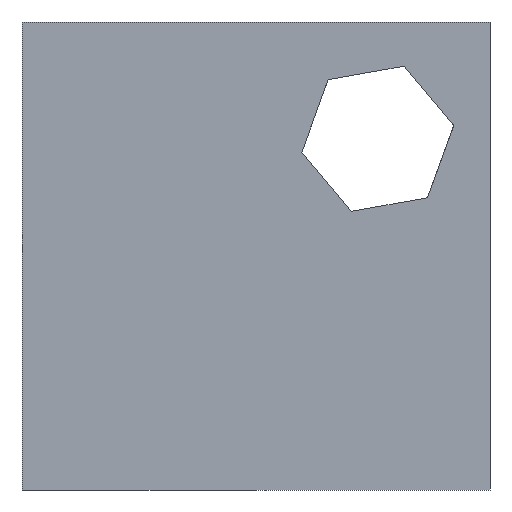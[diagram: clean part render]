
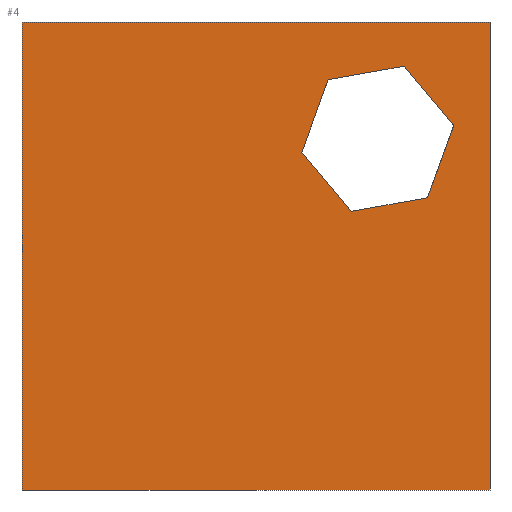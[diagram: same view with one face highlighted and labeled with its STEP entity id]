
A CAD part, left-side view. The second image highlights one B-rep face of the part: STEP entity #4.
In plain terms, the highlighted planar face has unit normal (-1, 0, 0).
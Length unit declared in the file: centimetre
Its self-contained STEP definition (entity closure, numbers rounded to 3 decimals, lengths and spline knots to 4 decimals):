
#4 = ADVANCED_FACE ( 'NONE', ( #845, #384 ), #516, .F. ) ;
#14 = VERTEX_POINT ( 'NONE', #727 ) ;
#15 = EDGE_CURVE ( 'NONE', #795, #220, #64, .T. ) ;
#23 = ORIENTED_EDGE ( 'NONE', *, *, #559, .F. ) ;
#24 = CARTESIAN_POINT ( 'NONE',  ( 0., 133.5123, 624.3828 ) ) ;
#36 = CARTESIAN_POINT ( 'NONE',  ( 0., 295.8965, 595.5922 ) ) ;
#43 = DIRECTION ( 'NONE',  ( 0., -0.985, 0.175 ) ) ;
#51 = CARTESIAN_POINT ( 'NONE',  ( 0., 0., 1000. ) ) ;
#52 = EDGE_CURVE ( 'NONE', #587, #110, #402, .T. ) ;
#56 = ORIENTED_EDGE ( 'NONE', *, *, #326, .F. ) ;
#59 = EDGE_LOOP ( 'NONE', ( #335, #543, #314, #250 ) ) ;
#64 = LINE ( 'NONE', #324, #591 ) ;
#67 = LINE ( 'NONE', #704, #729 ) ;
#82 = CARTESIAN_POINT ( 'NONE',  ( 0., 77.2536, 779.4069 ) ) ;
#95 = LINE ( 'NONE', #412, #501 ) ;
#109 = LINE ( 'NONE', #36, #123 ) ;
#110 = VERTEX_POINT ( 'NONE', #82 ) ;
#123 = VECTOR ( 'NONE', #43, 100. ) ;
#149 = ORIENTED_EDGE ( 'NONE', *, *, #498, .F. ) ;
#175 = LINE ( 'NONE', #368, #306 ) ;
#191 = LINE ( 'NONE', #577, #226 ) ;
#193 = EDGE_CURVE ( 'NONE', #220, #14, #95, .T. ) ;
#194 = ORIENTED_EDGE ( 'NONE', *, *, #343, .F. ) ;
#198 = VECTOR ( 'NONE', #807, 100. ) ;
#199 = DIRECTION ( 'NONE',  ( 0., 0., -1. ) ) ;
#204 = VERTEX_POINT ( 'NONE', #617 ) ;
#206 = CARTESIAN_POINT ( 'NONE',  ( 0., 295.8965, 595.5922 ) ) ;
#210 = VECTOR ( 'NONE', #467, 100. ) ;
#215 = LINE ( 'NONE', #668, #210 ) ;
#217 = CARTESIAN_POINT ( 'NONE',  ( 0., 133.5123, 624.3828 ) ) ;
#220 = VERTEX_POINT ( 'NONE', #692 ) ;
#225 = AXIS2_PLACEMENT_3D ( 'NONE', #658, #448, #271 ) ;
#226 = VECTOR ( 'NONE', #834, 100. ) ;
#245 = VERTEX_POINT ( 'NONE', #809 ) ;
#250 = ORIENTED_EDGE ( 'NONE', *, *, #15, .T. ) ;
#271 = DIRECTION ( 'NONE',  ( 0., 0., -1. ) ) ;
#306 = VECTOR ( 'NONE', #694, 100. ) ;
#314 = ORIENTED_EDGE ( 'NONE', *, *, #449, .F. ) ;
#324 = CARTESIAN_POINT ( 'NONE',  ( 0., 1000., 1000. ) ) ;
#326 = EDGE_CURVE ( 'NONE', #632, #574, #175, .T. ) ;
#335 = ORIENTED_EDGE ( 'NONE', *, *, #193, .T. ) ;
#343 = EDGE_CURVE ( 'NONE', #574, #587, #109, .T. ) ;
#368 = CARTESIAN_POINT ( 'NONE',  ( 0., 402.0219, 721.8257 ) ) ;
#370 = VECTOR ( 'NONE', #387, 100. ) ;
#376 = ORIENTED_EDGE ( 'NONE', *, *, #595, .F. ) ;
#378 = EDGE_LOOP ( 'NONE', ( #376, #149, #23, #641, #194, #56 ) ) ;
#384 = FACE_OUTER_BOUND ( 'NONE', #59, .T. ) ;
#387 = DIRECTION ( 'NONE',  ( 0., 0., -1. ) ) ;
#391 = LINE ( 'NONE', #651, #370 ) ;
#402 = LINE ( 'NONE', #217, #198 ) ;
#412 = CARTESIAN_POINT ( 'NONE',  ( 0., 1000., 0. ) ) ;
#441 = CARTESIAN_POINT ( 'NONE',  ( 0., 77.2536, 779.4069 ) ) ;
#448 = DIRECTION ( 'NONE',  ( 1., 0., 0. ) ) ;
#449 = EDGE_CURVE ( 'NONE', #795, #493, #191, .T. ) ;
#461 = CARTESIAN_POINT ( 'NONE',  ( 0., 1000., 1000. ) ) ;
#467 = DIRECTION ( 'NONE',  ( 0., 0.341, -0.94 ) ) ;
#470 = DIRECTION ( 'NONE',  ( 0., -1., 0. ) ) ;
#490 = EDGE_CURVE ( 'NONE', #493, #14, #391, .T. ) ;
#493 = VERTEX_POINT ( 'NONE', #51 ) ;
#498 = EDGE_CURVE ( 'NONE', #245, #204, #67, .T. ) ;
#500 = DIRECTION ( 'NONE',  ( 0., 0.985, -0.175 ) ) ;
#501 = VECTOR ( 'NONE', #470, 100. ) ;
#516 = PLANE ( 'NONE',  #225 ) ;
#543 = ORIENTED_EDGE ( 'NONE', *, *, #490, .F. ) ;
#559 = EDGE_CURVE ( 'NONE', #110, #245, #839, .T. ) ;
#563 = VECTOR ( 'NONE', #602, 100. ) ;
#574 = VERTEX_POINT ( 'NONE', #206 ) ;
#577 = CARTESIAN_POINT ( 'NONE',  ( 0., 1000., 1000. ) ) ;
#587 = VERTEX_POINT ( 'NONE', #24 ) ;
#591 = VECTOR ( 'NONE', #199, 100. ) ;
#595 = EDGE_CURVE ( 'NONE', #204, #632, #215, .T. ) ;
#602 = DIRECTION ( 'NONE',  ( 0., 0.644, 0.765 ) ) ;
#617 = CARTESIAN_POINT ( 'NONE',  ( 0., 345.7632, 876.8498 ) ) ;
#632 = VERTEX_POINT ( 'NONE', #811 ) ;
#641 = ORIENTED_EDGE ( 'NONE', *, *, #52, .F. ) ;
#651 = CARTESIAN_POINT ( 'NONE',  ( 0., 0., 1000. ) ) ;
#658 = CARTESIAN_POINT ( 'NONE',  ( 0., 1000., 1000. ) ) ;
#668 = CARTESIAN_POINT ( 'NONE',  ( 0., 345.7632, 876.8498 ) ) ;
#692 = CARTESIAN_POINT ( 'NONE',  ( 0., 1000., 0. ) ) ;
#694 = DIRECTION ( 'NONE',  ( 0., -0.644, -0.765 ) ) ;
#704 = CARTESIAN_POINT ( 'NONE',  ( 0., 183.3791, 905.6404 ) ) ;
#727 = CARTESIAN_POINT ( 'NONE',  ( 0., 0., 0. ) ) ;
#729 = VECTOR ( 'NONE', #500, 100. ) ;
#795 = VERTEX_POINT ( 'NONE', #461 ) ;
#807 = DIRECTION ( 'NONE',  ( 0., -0.341, 0.94 ) ) ;
#809 = CARTESIAN_POINT ( 'NONE',  ( 0., 183.3791, 905.6404 ) ) ;
#811 = CARTESIAN_POINT ( 'NONE',  ( 0., 402.0219, 721.8257 ) ) ;
#834 = DIRECTION ( 'NONE',  ( 0., -1., 0. ) ) ;
#839 = LINE ( 'NONE', #441, #563 ) ;
#845 = FACE_BOUND ( 'NONE', #378, .T. ) ;
